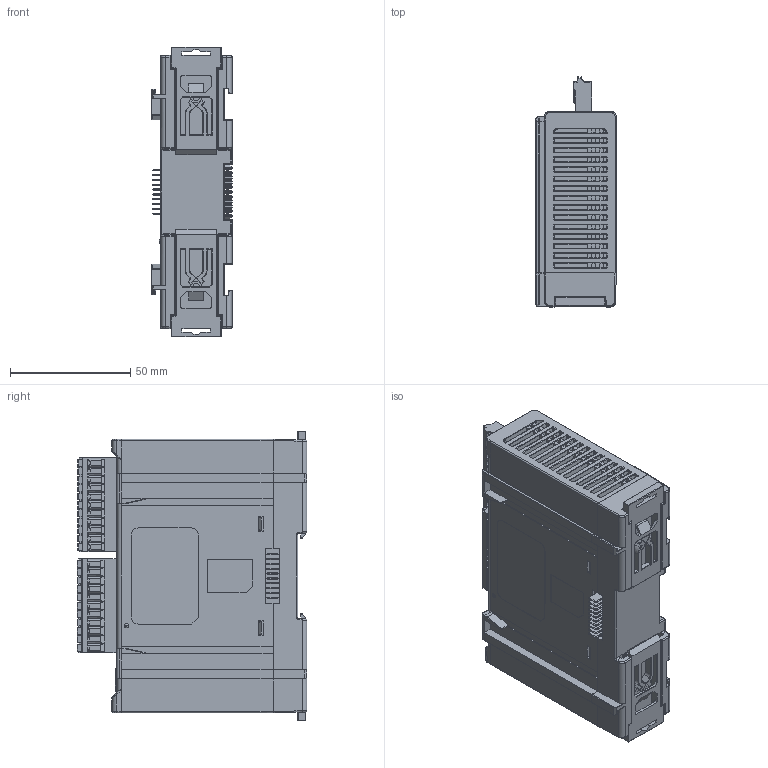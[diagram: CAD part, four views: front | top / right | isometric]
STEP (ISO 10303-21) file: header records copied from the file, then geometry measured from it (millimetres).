
FILE_DESCRIPTION((''),'2;1');
FILE_NAME('DTM-DOX','2021-03-02T',('BRAD.PENG'),(''),'PRO/ENGINEER BY PARAMETRIC TECHNOLOGY CORPORATION, 2012360','PRO/ENGINEER BY PARAMETRIC TECHNOLOGY CORPORATION, 2012360','');
FILE_SCHEMA(('CONFIG_CONTROL_DESIGN','GEOMETRIC_VALIDATION_PROPERTIES_MIM'));
Products named in the file (1): DTM-DOX
Bounding box: 33.5 x 95.72 x 120.8 mm (x, y, z)
Volume: 244368.6 mm3; surface area: 81472.7 mm2
Topology: 2 solids, 6 shells, 3819 faces, 10302 edges, 6576 vertices
Faces by surface type: plane 2449, cylinder 929, bspline 207, cone 123, torus 85, sphere 26
Entity records: 186163 total; most frequent: CARTESIAN_POINT 41576, ORIENTED_EDGE 20548, DIRECTION 17593, PRESENTATION_STYLE_ASSIGNMENT 11946, STYLED_ITEM 10276, CURVE_STYLE 10274, EDGE_CURVE 10274, VECTOR 7635
